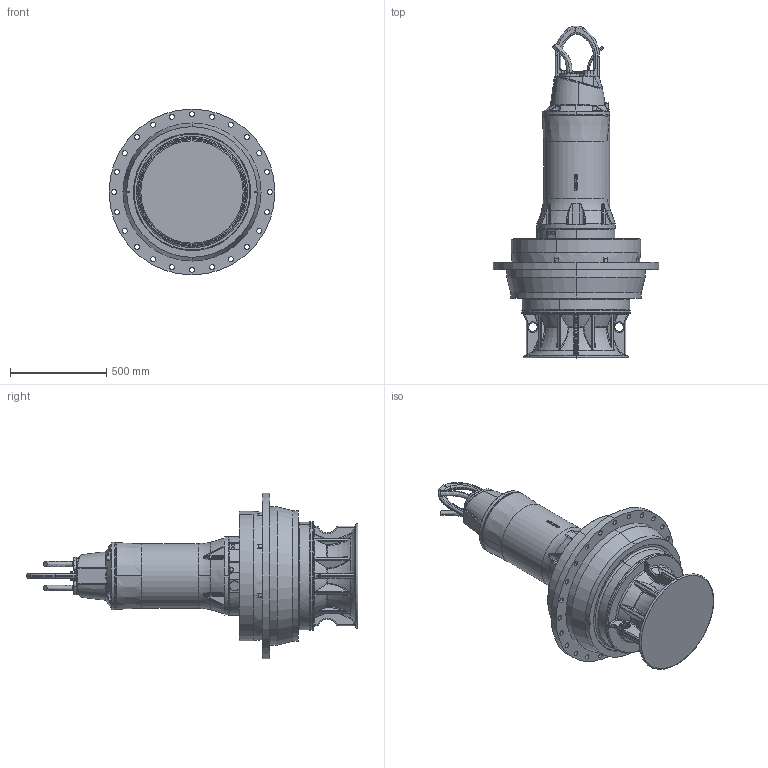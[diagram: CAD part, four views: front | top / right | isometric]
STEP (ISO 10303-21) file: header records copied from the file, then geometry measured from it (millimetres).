
FILE_DESCRIPTION (( 'STEP AP214' ), '1' );
FILE_NAME ('PE4_AFLX0700_DIN_A_NG2.STEP', '2017-04-11T05:11:53', ( '' ), ( '' ), 'SwSTEP 2.0', 'SolidWorks 2017', '' );
FILE_SCHEMA (( 'AUTOMOTIVE_DESIGN' ));
Length unit declared in the file: millimetre
Products named in the file (1): PE4_AFLX0700_DIN_A_NG2
Bounding box: 863 x 1728.7 x 863 mm (x, y, z)
Volume: 233151344.2 mm3; surface area: 4671853 mm2
Topology: 4 solids, 4 shells, 1480 faces, 3666 edges, 2187 vertices
Faces by surface type: bspline 585, cylinder 360, plane 261, torus 158, cone 100, sphere 16
Entity records: 153416 total; most frequent: CARTESIAN_POINT 106642, ORIENTED_EDGE 7248, DIRECTION 5205, EDGE_CURVE 3624, AXIS2_PLACEMENT_3D 2223, VERTEX_POINT 2187, EDGE_LOOP 1593, UNCERTAINTY_MEASURE_WITH_UNIT 1486
